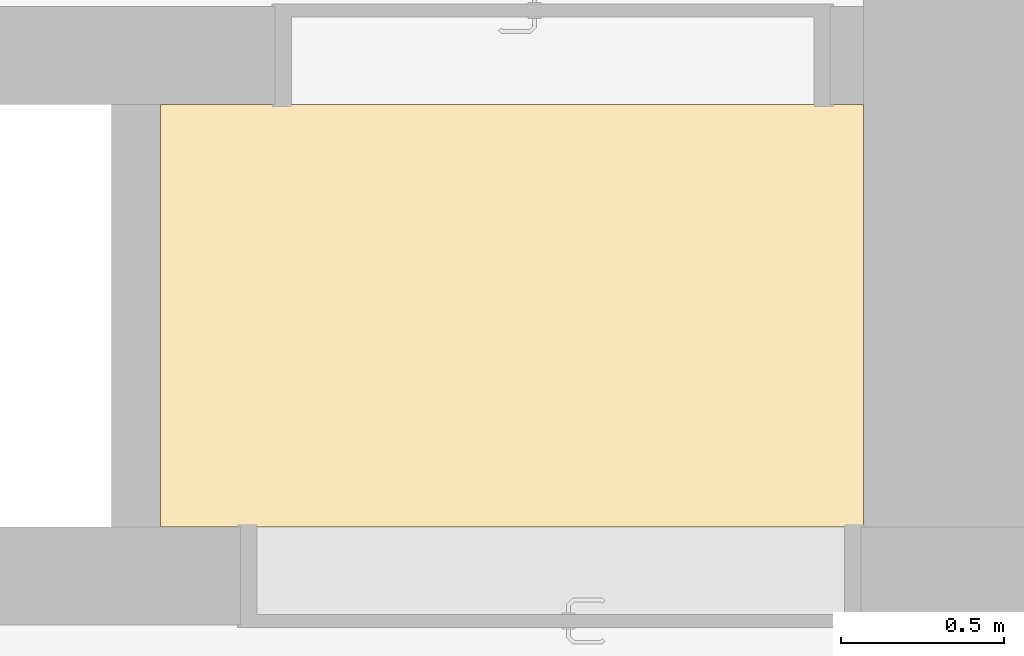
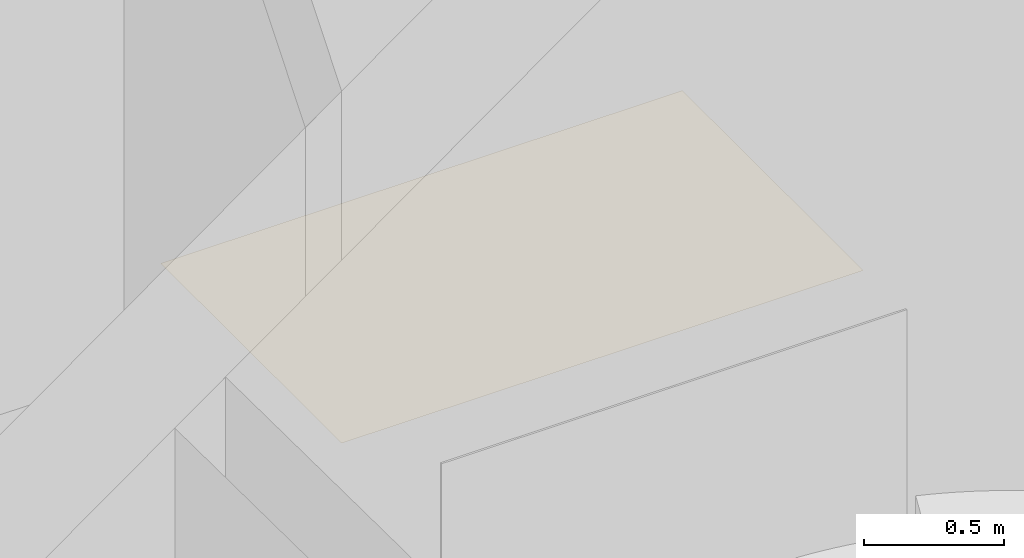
# One storey, part 38 of 39: 1 covering.
"""IFC4 building model written with IfcOpenShell, lengths in metres."""

from ifc_helpers import new_model, entity, si_unit, converted_unit, derived_unit, direction, frame, origin, place, context, subcontext, project, spatial, polygons, material, layer, layer_set, type_object, element, save


model = new_model("IFC4")

# Units and contexts
model_context = context("Model", 3, precision=1e-05, world=origin(), true_north=direction((6.12303176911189e-17, 1.0)))
body_context = subcontext(model_context, "Body", "Model", "MODEL_VIEW")
ifc_project = project(units=[si_unit("LENGTHUNIT", "METRE"), si_unit("AREAUNIT", "SQUARE_METRE"), si_unit("VOLUMEUNIT", "CUBIC_METRE"), converted_unit("PLANEANGLEUNIT", "DEGREE", entity("IfcRatioMeasure", 0.0174532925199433), si_unit("PLANEANGLEUNIT", "RADIAN"), dimensions=[0, 0, 0, 0, 0, 0, 0]), si_unit("MASSUNIT", "GRAM", prefix="KILO"), derived_unit("MASSDENSITYUNIT", [(si_unit("MASSUNIT", "GRAM", prefix="KILO"), 1), (si_unit("LENGTHUNIT", "METRE"), -3)]), derived_unit("MOMENTOFINERTIAUNIT", [(si_unit("LENGTHUNIT", "METRE"), 4)]), si_unit("TIMEUNIT", "SECOND"), si_unit("FREQUENCYUNIT", "HERTZ"), si_unit("THERMODYNAMICTEMPERATUREUNIT", "DEGREE_CELSIUS"), derived_unit("THERMALTRANSMITTANCEUNIT", [(si_unit("MASSUNIT", "GRAM", prefix="KILO"), 1), (si_unit("THERMODYNAMICTEMPERATUREUNIT", "KELVIN"), -1), (si_unit("TIMEUNIT", "SECOND"), -3)]), derived_unit("VOLUMETRICFLOWRATEUNIT", [(si_unit("LENGTHUNIT", "METRE"), 3), (si_unit("TIMEUNIT", "SECOND"), -1)]), si_unit("ELECTRICCURRENTUNIT", "AMPERE"), si_unit("ELECTRICVOLTAGEUNIT", "VOLT"), si_unit("POWERUNIT", "WATT"), si_unit("FORCEUNIT", "NEWTON", prefix="KILO"), si_unit("ILLUMINANCEUNIT", "LUX"), si_unit("LUMINOUSFLUXUNIT", "LUMEN"), si_unit("LUMINOUSINTENSITYUNIT", "CANDELA"), derived_unit("USERDEFINED", [(si_unit("MASSUNIT", "GRAM", prefix="KILO"), -1), (si_unit("LENGTHUNIT", "METRE"), -2), (si_unit("TIMEUNIT", "SECOND"), 3), (si_unit("LUMINOUSFLUXUNIT", "LUMEN"), 1)]), derived_unit("LINEARVELOCITYUNIT", [(si_unit("LENGTHUNIT", "METRE"), 1), (si_unit("TIMEUNIT", "SECOND"), -1)]), si_unit("PRESSUREUNIT", "PASCAL"), derived_unit("USERDEFINED", [(si_unit("LENGTHUNIT", "METRE"), -2), (si_unit("MASSUNIT", "GRAM", prefix="KILO"), 1), (si_unit("TIMEUNIT", "SECOND"), -2)]), derived_unit("LINEARFORCEUNIT", [(si_unit("MASSUNIT", "GRAM", prefix="KILO"), 1), (si_unit("LENGTHUNIT", "METRE"), 1), (si_unit("TIMEUNIT", "SECOND"), -2), (si_unit("LENGTHUNIT", "METRE"), -1)]), derived_unit("PLANARFORCEUNIT", [(si_unit("MASSUNIT", "GRAM", prefix="KILO"), 1), (si_unit("LENGTHUNIT", "METRE"), 1), (si_unit("TIMEUNIT", "SECOND"), -2), (si_unit("LENGTHUNIT", "METRE"), -2)])], contexts=[model_context])

# Site, building, storey
site_placement = place(None, origin())
site = spatial("IfcSite", under=ifc_project, at=site_placement, Name="Default", CompositionType="ELEMENT")
building_placement = place(site_placement, origin())
building = spatial("IfcBuilding", under=site, at=building_placement, Name="HOTEL CONSULAIRE BOULOGNE SUR MER", CompositionType="ELEMENT")
storey_placement = place(building_placement, frame((0.0, 0.0, -5.02343668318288)))
storey = spatial("IfcBuildingStorey", under=building, at=storey_placement, Name="SS3", CompositionType="ELEMENT", Elevation=-5.02343668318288)

# Covering
ifc_material = material(Name="Faux-plafond - Trame 600 x 600", Category="Divers")
ifc_layer = layer(ifc_material, 0.0, Name="Faux-plafond - Trame 600 x 600", Category="Divers")
ifc_layer_set = layer_set([ifc_layer], Name="Plafond de base:Plafond 600 mm x 1200 mm")
covering_type = type_object("IfcCoveringType", Name="Plafond de base:Plafond 600 mm x 1200 mm", PredefinedType="CEILING")
covering_placement = place(storey_placement, frame((19.466946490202, -29.3180671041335, 2.3300905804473)))
element("IfcCovering", 1, at=covering_placement, inside=storey, type_object=covering_type, material=ifc_layer_set, Name="Plafond de base:Plafond 600 mm x 1200 mm", ObjectType="Plafond de base:Plafond 600 mm x 1200 mm", PredefinedType="CEILING", context=body_context, shape_type="Tessellation", body=[
    polygons([(2.16573425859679e-15, 8.66293703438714e-15, 0.0), (2.15311398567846, 0.0, 0.0), (2.15311398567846, 1.29424399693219, 0.0), (6.49720277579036e-15, 1.2942439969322, 0.0)], [[[4, 1, 2, 3]]], closed=True),
])

save(model, "model.ifc")
